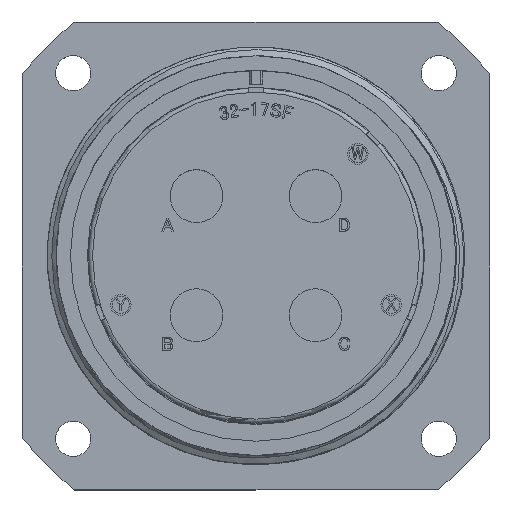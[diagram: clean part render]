
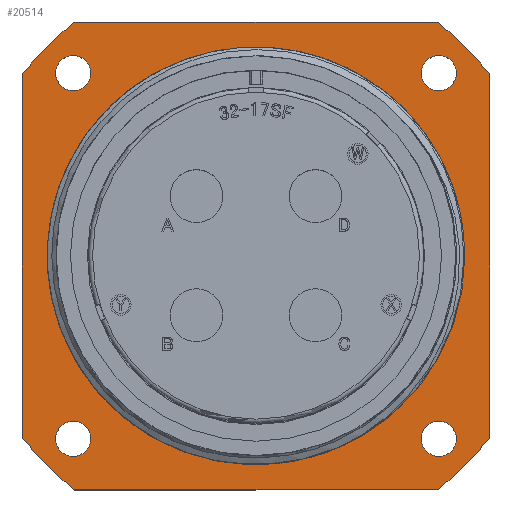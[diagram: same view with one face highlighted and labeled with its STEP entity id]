
A CAD part, top view. The second image highlights one B-rep face of the part: STEP entity #20514.
In plain terms, the highlighted planar face has unit normal (0, 0, 1).
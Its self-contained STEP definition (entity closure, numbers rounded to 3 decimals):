
#17 = DIRECTION ( 'NONE',  ( 1., 0., 0. ) ) ;
#35 = DIRECTION ( 'NONE',  ( -1., 0., 0. ) ) ;
#421 = VERTEX_POINT ( 'NONE', #19901 ) ;
#791 = CARTESIAN_POINT ( 'NONE',  ( 0., 0., -22.4 ) ) ;
#879 = EDGE_CURVE ( 'NONE', #12425, #25358, #16877, .T. ) ;
#1110 = FACE_BOUND ( 'NONE', #26306, .T. ) ;
#1753 = EDGE_CURVE ( 'NONE', #16349, #25877, #24282, .T. ) ;
#1770 = ORIENTED_EDGE ( 'NONE', *, *, #17340, .F. ) ;
#1923 = CARTESIAN_POINT ( 'NONE',  ( 22.059, -28.45, -22.4 ) ) ;
#2261 = VERTEX_POINT ( 'NONE', #6632 ) ;
#2421 = EDGE_CURVE ( 'NONE', #2261, #2261, #18183, .T. ) ;
#2814 = EDGE_LOOP ( 'NONE', ( #27432 ) ) ;
#2866 = CARTESIAN_POINT ( 'NONE',  ( 0., 0., -22.4 ) ) ;
#3045 = DIRECTION ( 'NONE',  ( 1., 0., 0. ) ) ;
#3361 = DIRECTION ( 'NONE',  ( 1., 0., 0. ) ) ;
#3473 = VERTEX_POINT ( 'NONE', #4835 ) ;
#3789 = FACE_BOUND ( 'NONE', #4178, .T. ) ;
#3938 = CARTESIAN_POINT ( 'NONE',  ( 22.059, 28.45, -22.4 ) ) ;
#4164 = EDGE_CURVE ( 'NONE', #12425, #13445, #5067, .T. ) ;
#4178 = EDGE_LOOP ( 'NONE', ( #1770 ) ) ;
#4179 = DIRECTION ( 'NONE',  ( 0., 0., 1. ) ) ;
#4190 = VERTEX_POINT ( 'NONE', #9242 ) ;
#4241 = CARTESIAN_POINT ( 'NONE',  ( 22.225, 22.225, -22.4 ) ) ;
#4324 = DIRECTION ( 'NONE',  ( 0., 0., 1. ) ) ;
#4348 = PLANE ( 'NONE',  #4581 ) ;
#4577 = ORIENTED_EDGE ( 'NONE', *, *, #24135, .T. ) ;
#4581 = AXIS2_PLACEMENT_3D ( 'NONE', #8320, #8512, #27914 ) ;
#4615 = ORIENTED_EDGE ( 'NONE', *, *, #7125, .F. ) ;
#4795 = CARTESIAN_POINT ( 'NONE',  ( -22.059, -28.45, -22.4 ) ) ;
#4835 = CARTESIAN_POINT ( 'NONE',  ( 25.38, 0., -22.4 ) ) ;
#4936 = VECTOR ( 'NONE', #23130, 1000. ) ;
#5067 = LINE ( 'NONE', #21414, #26992 ) ;
#5096 = DIRECTION ( 'NONE',  ( 1., 0., 0. ) ) ;
#5105 = DIRECTION ( 'NONE',  ( 0., 0., 1. ) ) ;
#5399 = DIRECTION ( 'NONE',  ( 0., 0., 1. ) ) ;
#5703 = EDGE_LOOP ( 'NONE', ( #18364, #13511, #22520, #12742, #4577, #9920, #8561, #7693 ) ) ;
#6171 = CARTESIAN_POINT ( 'NONE',  ( 0., 0., -22.4 ) ) ;
#6180 = AXIS2_PLACEMENT_3D ( 'NONE', #2866, #5105, #13441 ) ;
#6270 = AXIS2_PLACEMENT_3D ( 'NONE', #18142, #16288, #3361 ) ;
#6505 = DIRECTION ( 'NONE',  ( -1., 0., 0. ) ) ;
#6632 = CARTESIAN_POINT ( 'NONE',  ( 20.09, 22.225, -22.4 ) ) ;
#6998 = AXIS2_PLACEMENT_3D ( 'NONE', #18403, #5399, #9823 ) ;
#7046 = DIRECTION ( 'NONE',  ( 0., -1., 0. ) ) ;
#7102 = DIRECTION ( 'NONE',  ( 0., 0., 1. ) ) ;
#7125 = EDGE_CURVE ( 'NONE', #18077, #18077, #16619, .T. ) ;
#7348 = VERTEX_POINT ( 'NONE', #23675 ) ;
#7440 = CIRCLE ( 'NONE', #20823, 36. ) ;
#7693 = ORIENTED_EDGE ( 'NONE', *, *, #25178, .F. ) ;
#8292 = EDGE_LOOP ( 'NONE', ( #4615 ) ) ;
#8320 = CARTESIAN_POINT ( 'NONE',  ( 0., 25.38, -22.4 ) ) ;
#8512 = DIRECTION ( 'NONE',  ( 0., 0., -1. ) ) ;
#8561 = ORIENTED_EDGE ( 'NONE', *, *, #24806, .T. ) ;
#9242 = CARTESIAN_POINT ( 'NONE',  ( -24.36, -22.225, -22.4 ) ) ;
#9823 = DIRECTION ( 'NONE',  ( 1., 0., 0. ) ) ;
#9920 = ORIENTED_EDGE ( 'NONE', *, *, #1753, .F. ) ;
#10300 = DIRECTION ( 'NONE',  ( 1., 0., 0. ) ) ;
#10412 = CIRCLE ( 'NONE', #6270, 36. ) ;
#10614 = DIRECTION ( 'NONE',  ( 1., 0., 0. ) ) ;
#10849 = CARTESIAN_POINT ( 'NONE',  ( 22.059, 28.45, -22.4 ) ) ;
#11251 = AXIS2_PLACEMENT_3D ( 'NONE', #17244, #4324, #6505 ) ;
#11740 = LINE ( 'NONE', #1923, #4936 ) ;
#11923 = EDGE_CURVE ( 'NONE', #18633, #13445, #10412, .T. ) ;
#12425 = VERTEX_POINT ( 'NONE', #18394 ) ;
#12742 = ORIENTED_EDGE ( 'NONE', *, *, #13816, .F. ) ;
#13017 = CIRCLE ( 'NONE', #11251, 2.135 ) ;
#13441 = DIRECTION ( 'NONE',  ( 1., 0., 0. ) ) ;
#13445 = VERTEX_POINT ( 'NONE', #17756 ) ;
#13511 = ORIENTED_EDGE ( 'NONE', *, *, #4164, .F. ) ;
#13816 = EDGE_CURVE ( 'NONE', #7348, #25358, #11740, .T. ) ;
#16218 = VECTOR ( 'NONE', #7046, 1000. ) ;
#16278 = FACE_BOUND ( 'NONE', #2814, .T. ) ;
#16288 = DIRECTION ( 'NONE',  ( 0., 0., 1. ) ) ;
#16349 = VERTEX_POINT ( 'NONE', #23046 ) ;
#16619 = CIRCLE ( 'NONE', #6998, 2.135 ) ;
#16877 = CIRCLE ( 'NONE', #25311, 36. ) ;
#16940 = FACE_BOUND ( 'NONE', #8292, .T. ) ;
#17074 = EDGE_LOOP ( 'NONE', ( #19259 ) ) ;
#17093 = CARTESIAN_POINT ( 'NONE',  ( 22.225, -22.225, -22.4 ) ) ;
#17244 = CARTESIAN_POINT ( 'NONE',  ( -22.225, -22.225, -22.4 ) ) ;
#17340 = EDGE_CURVE ( 'NONE', #4190, #4190, #13017, .T. ) ;
#17756 = CARTESIAN_POINT ( 'NONE',  ( -28.45, 22.059, -22.4 ) ) ;
#17916 = CARTESIAN_POINT ( 'NONE',  ( -20.09, 22.225, -22.4 ) ) ;
#18077 = VERTEX_POINT ( 'NONE', #17916 ) ;
#18142 = CARTESIAN_POINT ( 'NONE',  ( 0., 0., -22.4 ) ) ;
#18183 = CIRCLE ( 'NONE', #23160, 2.135 ) ;
#18364 = ORIENTED_EDGE ( 'NONE', *, *, #11923, .T. ) ;
#18394 = CARTESIAN_POINT ( 'NONE',  ( -28.45, -22.059, -22.4 ) ) ;
#18403 = CARTESIAN_POINT ( 'NONE',  ( -22.225, 22.225, -22.4 ) ) ;
#18592 = FACE_OUTER_BOUND ( 'NONE', #5703, .T. ) ;
#18633 = VERTEX_POINT ( 'NONE', #23206 ) ;
#18948 = DIRECTION ( 'NONE',  ( 0., 0., 1. ) ) ;
#19259 = ORIENTED_EDGE ( 'NONE', *, *, #22171, .F. ) ;
#19613 = EDGE_CURVE ( 'NONE', #3473, #3473, #25039, .T. ) ;
#19901 = CARTESIAN_POINT ( 'NONE',  ( 24.36, -22.225, -22.4 ) ) ;
#19929 = CARTESIAN_POINT ( 'NONE',  ( 28.45, 22.059, -22.4 ) ) ;
#20176 = LINE ( 'NONE', #10849, #23222 ) ;
#20514 = ADVANCED_FACE ( 'NONE', ( #27053, #3789, #16278, #16940, #1110, #18592 ), #4348, .F. ) ;
#20823 = AXIS2_PLACEMENT_3D ( 'NONE', #6171, #21262, #10614 ) ;
#21262 = DIRECTION ( 'NONE',  ( 0., 0., 1. ) ) ;
#21414 = CARTESIAN_POINT ( 'NONE',  ( -28.45, 22.059, -22.4 ) ) ;
#22171 = EDGE_CURVE ( 'NONE', #421, #421, #24958, .T. ) ;
#22175 = DIRECTION ( 'NONE',  ( 0., 0., 1. ) ) ;
#22436 = ORIENTED_EDGE ( 'NONE', *, *, #19613, .F. ) ;
#22520 = ORIENTED_EDGE ( 'NONE', *, *, #879, .T. ) ;
#22541 = CARTESIAN_POINT ( 'NONE',  ( 0., 0., -22.4 ) ) ;
#23046 = CARTESIAN_POINT ( 'NONE',  ( 28.45, 22.059, -22.4 ) ) ;
#23130 = DIRECTION ( 'NONE',  ( -1., 0., 0. ) ) ;
#23160 = AXIS2_PLACEMENT_3D ( 'NONE', #4241, #18948, #35 ) ;
#23206 = CARTESIAN_POINT ( 'NONE',  ( -22.059, 28.45, -22.4 ) ) ;
#23222 = VECTOR ( 'NONE', #17, 1000. ) ;
#23675 = CARTESIAN_POINT ( 'NONE',  ( 22.059, -28.45, -22.4 ) ) ;
#23860 = DIRECTION ( 'NONE',  ( 0., 1., 0. ) ) ;
#24135 = EDGE_CURVE ( 'NONE', #7348, #25877, #7440, .T. ) ;
#24270 = AXIS2_PLACEMENT_3D ( 'NONE', #17093, #4179, #10300 ) ;
#24282 = LINE ( 'NONE', #19929, #16218 ) ;
#24806 = EDGE_CURVE ( 'NONE', #16349, #27176, #27629, .T. ) ;
#24958 = CIRCLE ( 'NONE', #24270, 2.135 ) ;
#25039 = CIRCLE ( 'NONE', #6180, 25.38 ) ;
#25178 = EDGE_CURVE ( 'NONE', #18633, #27176, #20176, .T. ) ;
#25311 = AXIS2_PLACEMENT_3D ( 'NONE', #791, #22175, #5096 ) ;
#25358 = VERTEX_POINT ( 'NONE', #4795 ) ;
#25668 = CARTESIAN_POINT ( 'NONE',  ( 28.45, -22.059, -22.4 ) ) ;
#25877 = VERTEX_POINT ( 'NONE', #25668 ) ;
#26295 = AXIS2_PLACEMENT_3D ( 'NONE', #22541, #7102, #3045 ) ;
#26306 = EDGE_LOOP ( 'NONE', ( #22436 ) ) ;
#26992 = VECTOR ( 'NONE', #23860, 1000. ) ;
#27053 = FACE_BOUND ( 'NONE', #17074, .T. ) ;
#27176 = VERTEX_POINT ( 'NONE', #3938 ) ;
#27432 = ORIENTED_EDGE ( 'NONE', *, *, #2421, .F. ) ;
#27629 = CIRCLE ( 'NONE', #26295, 36. ) ;
#27914 = DIRECTION ( 'NONE',  ( -1., 0., 0. ) ) ;
